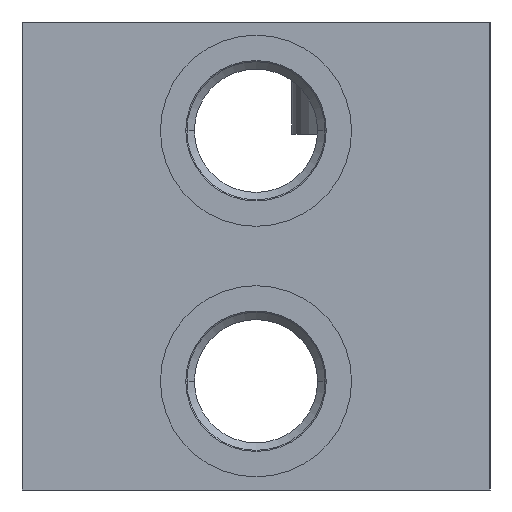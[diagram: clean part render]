
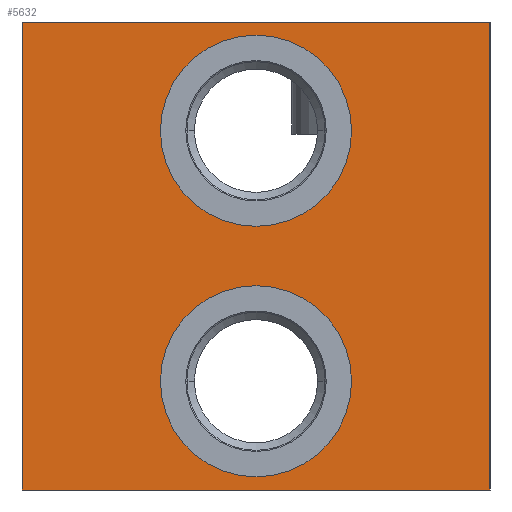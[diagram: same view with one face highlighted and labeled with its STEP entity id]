
A CAD part, left-side view. The second image highlights one B-rep face of the part: STEP entity #5632.
In plain terms, the highlighted planar face has unit normal (-1, 0, 0).
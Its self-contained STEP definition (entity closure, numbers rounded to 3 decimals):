
#30=DIRECTION('',(0.,-1.,0.));
#31=VECTOR('',#30,71.);
#32=CARTESIAN_POINT('',(0.,71.,0.));
#33=LINE('',#32,#31);
#195=DIRECTION('',(0.,0.,-1.));
#196=VECTOR('',#195,71.);
#197=CARTESIAN_POINT('',(0.,0.,0.));
#198=LINE('',#197,#196);
#1154=DIRECTION('',(0.,0.,-1.));
#1155=VECTOR('',#1154,71.);
#1156=CARTESIAN_POINT('',(0.,71.,0.));
#1157=LINE('',#1156,#1155);
#1161=CARTESIAN_POINT('',(0.,35.5,-54.5));
#1162=DIRECTION('',(1.,0.,0.));
#1163=DIRECTION('',(0.,-1.,0.));
#1164=AXIS2_PLACEMENT_3D('',#1161,#1162,#1163);
#1169=CARTESIAN_POINT('',(0.,35.5,-54.5));
#1170=DIRECTION('',(1.,0.,0.));
#1171=DIRECTION('',(0.,1.,0.));
#1172=AXIS2_PLACEMENT_3D('',#1169,#1170,#1171);
#1177=CARTESIAN_POINT('',(0.,35.5,-16.5));
#1178=DIRECTION('',(1.,0.,0.));
#1179=DIRECTION('',(0.,-1.,0.));
#1180=AXIS2_PLACEMENT_3D('',#1177,#1178,#1179);
#1185=CARTESIAN_POINT('',(0.,35.5,-16.5));
#1186=DIRECTION('',(1.,0.,0.));
#1187=DIRECTION('',(0.,1.,0.));
#1188=AXIS2_PLACEMENT_3D('',#1185,#1186,#1187);
#1214=DIRECTION('',(0.,-1.,0.));
#1215=VECTOR('',#1214,71.);
#1216=CARTESIAN_POINT('',(0.,71.,-71.));
#1217=LINE('',#1216,#1215);
#4673=CARTESIAN_POINT('',(0.,0.,0.));
#4675=VERTEX_POINT('',#4673);
#4679=CARTESIAN_POINT('',(0.,71.,0.));
#4680=VERTEX_POINT('',#4679);
#4681=CARTESIAN_POINT('',(0.,0.,-71.));
#4683=VERTEX_POINT('',#4681);
#4687=CARTESIAN_POINT('',(0.,71.,-71.));
#4688=VERTEX_POINT('',#4687);
#4717=CARTESIAN_POINT('',(0.,21.,-54.5));
#4718=CARTESIAN_POINT('',(0.,50.,-54.5));
#4719=VERTEX_POINT('',#4717);
#4720=VERTEX_POINT('',#4718);
#4733=CARTESIAN_POINT('',(0.,21.,-16.5));
#4734=CARTESIAN_POINT('',(0.,50.,-16.5));
#4735=VERTEX_POINT('',#4733);
#4736=VERTEX_POINT('',#4734);
#5608=CARTESIAN_POINT('',(0.,71.,0.));
#5609=DIRECTION('',(-1.,0.,0.));
#5610=DIRECTION('',(0.,-1.,0.));
#5611=AXIS2_PLACEMENT_3D('',#5608,#5609,#5610);
#5612=PLANE('',#5611);
#5613=ORIENTED_EDGE('',*,*,#5264,.T.);
#5614=ORIENTED_EDGE('',*,*,#5344,.T.);
#5616=ORIENTED_EDGE('',*,*,#5615,.F.);
#5617=ORIENTED_EDGE('',*,*,#5431,.F.);
#5618=EDGE_LOOP('',(#5613,#5614,#5616,#5617));
#5619=FACE_OUTER_BOUND('',#5618,.F.);
#5621=ORIENTED_EDGE('',*,*,#5620,.F.);
#5623=ORIENTED_EDGE('',*,*,#5622,.F.);
#5624=EDGE_LOOP('',(#5621,#5623));
#5625=FACE_BOUND('',#5624,.F.);
#5627=ORIENTED_EDGE('',*,*,#5626,.F.);
#5629=ORIENTED_EDGE('',*,*,#5628,.F.);
#5630=EDGE_LOOP('',(#5627,#5629));
#5631=FACE_BOUND('',#5630,.F.);
#1165=CIRCLE('',#1164,14.5);
#1173=CIRCLE('',#1172,14.5);
#1181=CIRCLE('',#1180,14.5);
#1189=CIRCLE('',#1188,14.5);
#5264=EDGE_CURVE('',#4680,#4675,#33,.T.);
#5344=EDGE_CURVE('',#4675,#4683,#198,.T.);
#5431=EDGE_CURVE('',#4680,#4688,#1157,.T.);
#5615=EDGE_CURVE('',#4688,#4683,#1217,.T.);
#5620=EDGE_CURVE('',#4719,#4720,#1165,.T.);
#5622=EDGE_CURVE('',#4720,#4719,#1173,.T.);
#5626=EDGE_CURVE('',#4735,#4736,#1181,.T.);
#5628=EDGE_CURVE('',#4736,#4735,#1189,.T.);
#5632=ADVANCED_FACE('',(#5619,#5625,#5631),#5612,.T.);
